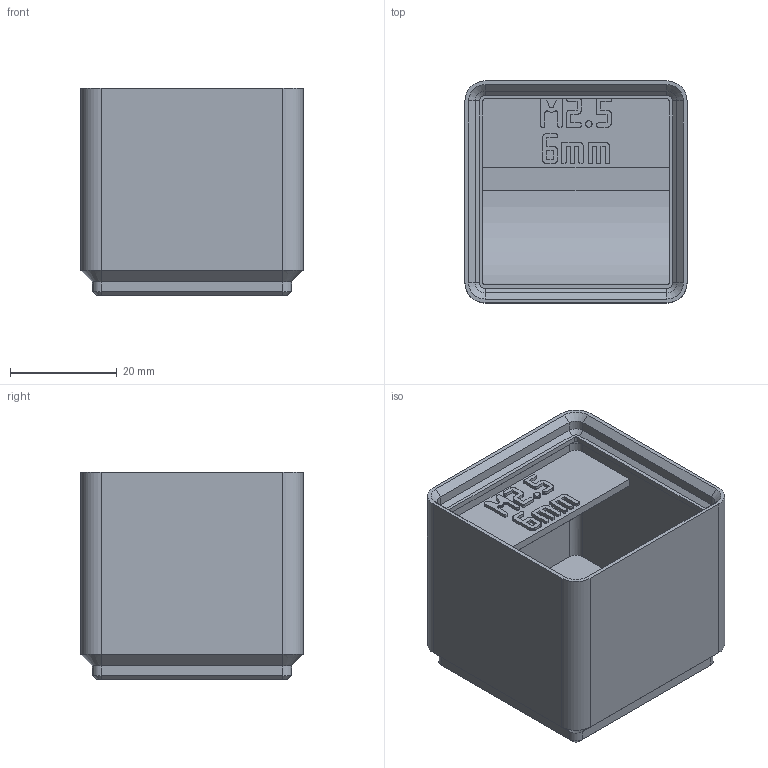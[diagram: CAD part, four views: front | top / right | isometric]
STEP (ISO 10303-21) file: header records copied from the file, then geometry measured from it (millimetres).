
FILE_DESCRIPTION(('Open CASCADE Model'),'2;1');
FILE_NAME('Open CASCADE Shape Model','2026-11-03T10:23:18',('Author'),( 'Open CASCADE'),'Open CASCADE STEP processor 8.0','build123d', 'Unknown');
FILE_SCHEMA(('AUTOMOTIVE_DESIGN { 1 0 10303 214 1 1 1 1 }'));
Products named in the file (1): COMPOUND
Bounding box: 41.5 x 41.5 x 38.8 mm (x, y, z)
Volume: 28178.9 mm3; surface area: 14251.3 mm2
Topology: 1 solids, 1 shells, 755 faces, 2173 edges, 1430 vertices
Faces by surface type: plane 712, cylinder 23, cone 20
Entity records: 51128 total; most frequent: CARTESIAN_POINT 10459, DIRECTION 6553, LINE 4913, VECTOR 4913, ORIENTED_EDGE 4346, PCURVE 4346, DEFINITIONAL_REPRESENTATION 4346, EDGE_CURVE 2173
